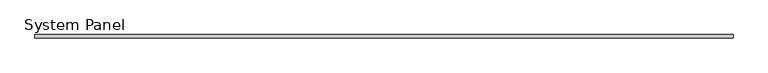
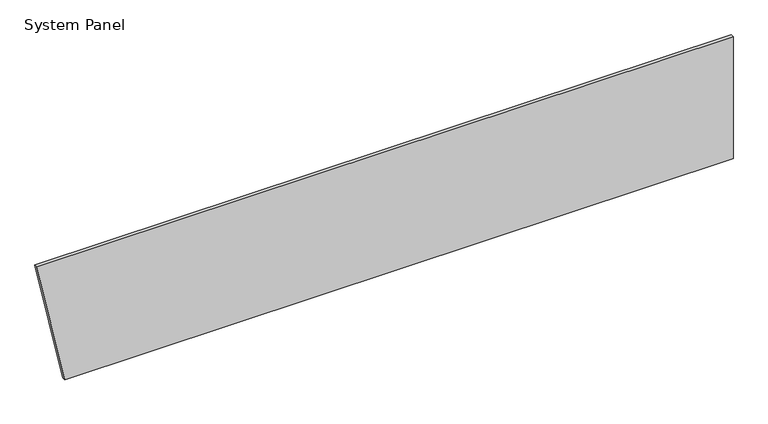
"""IFC4 building model written with IfcOpenShell, lengths in millimetres: plate geometry, System Panel : Purline 25mm Horizontal - Plain RHEA - PUR."""

from ifc_helpers import new_model, si_unit, frame, origin, place, context, project, spatial, polyline, outline, extrude, source, transform, mapped, element, save


def system_panel_851a3a75(model_context):
    return source(origin(), model_context, "Body", "SweptSolid", [
        extrude(outline(polyline([(0.0, -2481.3034742), (0.0, 2698.6965258), (1000.0, 2698.6965258), (1000.0, -2698.6965258), (0.0, -2481.3034742)])), frame((0.0, -25.0, 0.0), z_axis=(0.0, 1.0, 0.0), x_axis=(0.0, 0.0, 1.0)), (0.0, 0.0, 1.0), 25.0),
    ])


if __name__ == "__main__":
    model = new_model("IFC4")
    model_context = context("Model", 3, world=origin())
    ifc_project = project(units=[si_unit("LENGTHUNIT", "METRE", prefix="MILLI")], contexts=[model_context])
    site = spatial("IfcSite", under=ifc_project)
    building = spatial("IfcBuilding", under=site)
    placement = place(None, origin())
    system_panel_shape = system_panel_851a3a75(model_context)
    element("IfcPlate", 1, ObjectType="System Panel : Purline 25mm Horizontal - Plain RHEA - PUR", at=placement, inside=building, context=model_context, shape_type="MappedRepresentation", body=[
        mapped(system_panel_shape, transform((0.0, 0.0, 0.0), x_axis=(1.0, 0.0, 0.0), y_axis=(0.0, 1.0, 0.0), z_axis=(0.0, 0.0, 1.0))),
    ])
    save(model, "model.ifc")
